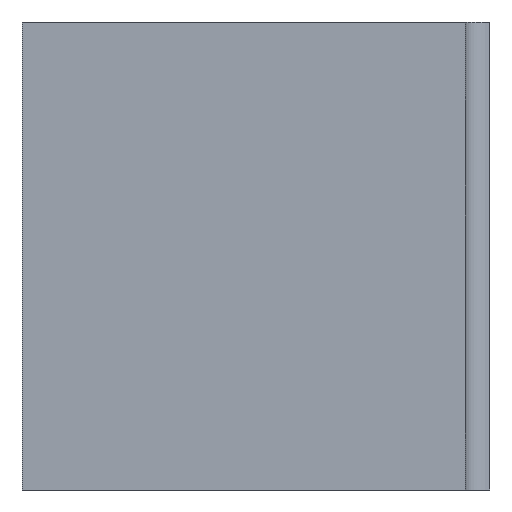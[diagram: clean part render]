
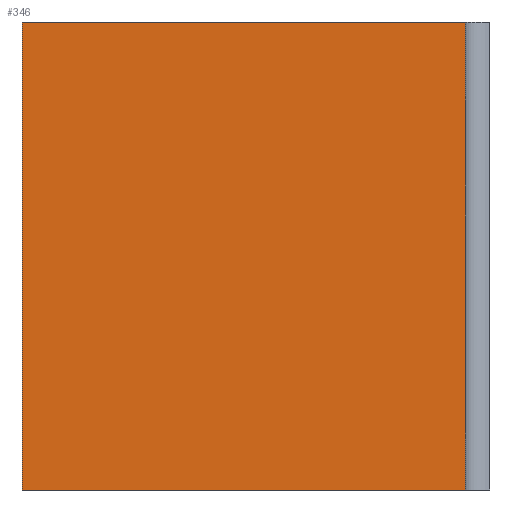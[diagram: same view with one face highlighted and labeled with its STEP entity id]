
A CAD part, left-side view. The second image highlights one B-rep face of the part: STEP entity #346.
In plain terms, the highlighted planar face has unit normal (-1, 0, 0).
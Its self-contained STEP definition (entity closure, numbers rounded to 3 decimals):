
#98 = EDGE_LOOP ( 'NONE', ( #140, #131, #152, #133 ) ) ;
#131 = ORIENTED_EDGE ( 'NONE', *, *, #1435, .F. ) ;
#133 = ORIENTED_EDGE ( 'NONE', *, *, #1409, .T. ) ;
#140 = ORIENTED_EDGE ( 'NONE', *, *, #1361, .F. ) ;
#152 = ORIENTED_EDGE ( 'NONE', *, *, #1418, .T. ) ;
#346 = ADVANCED_FACE ( 'NONE', ( #531 ), #940, .T. ) ;
#390 = VERTEX_POINT ( 'NONE', #1077 ) ;
#392 = VERTEX_POINT ( 'NONE', #1078 ) ;
#404 = VERTEX_POINT ( 'NONE', #1061 ) ;
#410 = VERTEX_POINT ( 'NONE', #1009 ) ;
#531 = FACE_OUTER_BOUND ( 'NONE', #98, .T. ) ;
#649 = LINE ( 'NONE', #1224, #650 ) ;
#650 = VECTOR ( 'NONE', #1220, 1000. ) ;
#719 = LINE ( 'NONE', #1584, #751 ) ;
#721 = VECTOR ( 'NONE', #1565, 1000. ) ;
#722 = LINE ( 'NONE', #1578, #727 ) ;
#727 = VECTOR ( 'NONE', #1579, 1000. ) ;
#746 = LINE ( 'NONE', #1549, #721 ) ;
#751 = VECTOR ( 'NONE', #1602, 1000. ) ;
#914 = DIRECTION ( 'NONE',  ( 0., 0., 1. ) ) ;
#934 = CARTESIAN_POINT ( 'NONE',  ( 0., -28.575, 0. ) ) ;
#940 = PLANE ( 'NONE',  #1468 ) ;
#946 = DIRECTION ( 'NONE',  ( -1., 0., 0. ) ) ;
#1009 = CARTESIAN_POINT ( 'NONE',  ( 0., 0., 0. ) ) ;
#1061 = CARTESIAN_POINT ( 'NONE',  ( 0., -28.575, -30.175 ) ) ;
#1077 = CARTESIAN_POINT ( 'NONE',  ( 0., -28.575, 0. ) ) ;
#1078 = CARTESIAN_POINT ( 'NONE',  ( 0., 0., -30.175 ) ) ;
#1220 = DIRECTION ( 'NONE',  ( 0., 0., 1. ) ) ;
#1224 = CARTESIAN_POINT ( 'NONE',  ( 0., 0., 0. ) ) ;
#1361 = EDGE_CURVE ( 'NONE', #392, #410, #649, .T. ) ;
#1409 = EDGE_CURVE ( 'NONE', #390, #410, #722, .T. ) ;
#1418 = EDGE_CURVE ( 'NONE', #404, #390, #746, .T. ) ;
#1435 = EDGE_CURVE ( 'NONE', #404, #392, #719, .T. ) ;
#1468 = AXIS2_PLACEMENT_3D ( 'NONE', #934, #946, #914 ) ;
#1549 = CARTESIAN_POINT ( 'NONE',  ( 0., -28.575, 0. ) ) ;
#1565 = DIRECTION ( 'NONE',  ( 0., 0., 1. ) ) ;
#1578 = CARTESIAN_POINT ( 'NONE',  ( 0., -28.575, 0. ) ) ;
#1579 = DIRECTION ( 'NONE',  ( 0., 1., 0. ) ) ;
#1584 = CARTESIAN_POINT ( 'NONE',  ( 0., -28.575, -30.175 ) ) ;
#1602 = DIRECTION ( 'NONE',  ( 0., 1., 0. ) ) ;
